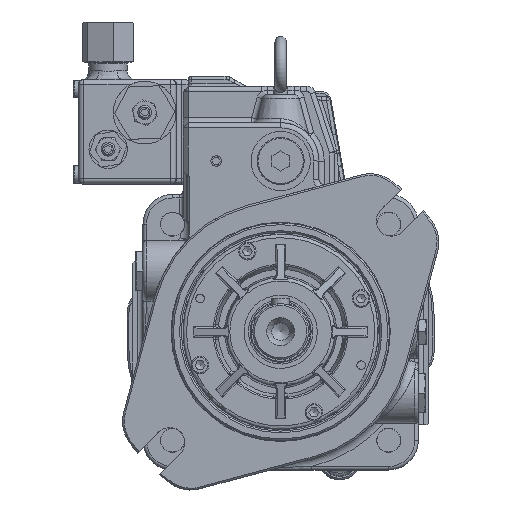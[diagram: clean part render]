
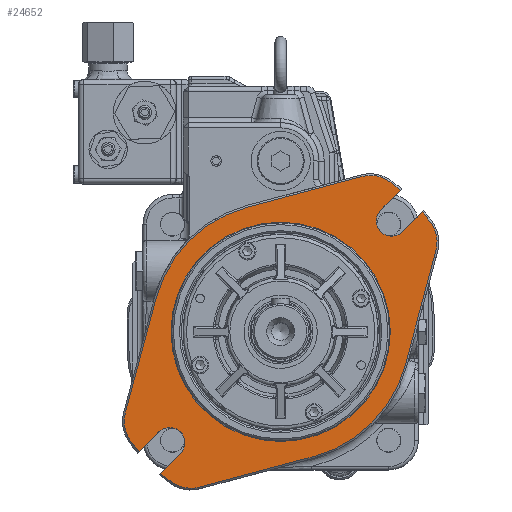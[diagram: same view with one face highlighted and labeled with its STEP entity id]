
A CAD part, top view. The second image highlights one B-rep face of the part: STEP entity #24652.
In plain terms, the highlighted planar face has unit normal (0, 0, 1).
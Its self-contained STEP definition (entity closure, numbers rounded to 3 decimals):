
#1773=LINE($,#42582,#3012);
#1780=LINE($,#42651,#3019);
#1785=LINE($,#42668,#3024);
#1787=LINE($,#42677,#3026);
#1788=LINE($,#42681,#3027);
#1789=LINE($,#42685,#3028);
#1790=LINE($,#42686,#3029);
#1791=LINE($,#42687,#3030);
#3012=VECTOR($,#31692,16.14);
#3019=VECTOR($,#31757,68.053);
#3024=VECTOR($,#31776,68.053);
#3026=VECTOR($,#31784,68.053);
#3027=VECTOR($,#31787,68.053);
#3028=VECTOR($,#31792,16.14);
#3029=VECTOR($,#31793,16.14);
#3030=VECTOR($,#31794,16.14);
#4319=PLANE($,#26896);
#4808=FACE_BOUND($,#7531,.T.);
#4809=FACE_BOUND($,#7532,.T.);
#7531=EDGE_LOOP($,(#18520));
#7532=EDGE_LOOP($,(#18521,#18522,#18523,#18524,#18525,#18526,#18527,#18528,
#18529,#18530,#18531,#18532,#18533,#18534,#18535,#18536,#18537,#18538,#18539,
#18540));
#9056=CIRCLE($,#26841,8.75);
#9068=CIRCLE($,#26861,8.75);
#9076=CIRCLE($,#26875,62.9);
#9079=CIRCLE($,#26880,106.5);
#9081=CIRCLE($,#26883,19.);
#9084=CIRCLE($,#26887,106.5);
#9086=CIRCLE($,#26891,19.);
#9087=CIRCLE($,#26893,74.);
#9089=CIRCLE($,#26897,106.5);
#9090=CIRCLE($,#26898,19.);
#9091=CIRCLE($,#26899,74.);
#9092=CIRCLE($,#26900,19.);
#9093=CIRCLE($,#26901,106.5);
#10787=VERTEX_POINT($,#42515);
#10788=VERTEX_POINT($,#42516);
#10809=VERTEX_POINT($,#42579);
#10810=VERTEX_POINT($,#42581);
#10811=VERTEX_POINT($,#42587);
#10819=VERTEX_POINT($,#42610);
#10825=VERTEX_POINT($,#42623);
#10826=VERTEX_POINT($,#42627);
#10828=VERTEX_POINT($,#42633);
#10830=VERTEX_POINT($,#42639);
#10833=VERTEX_POINT($,#42646);
#10834=VERTEX_POINT($,#42650);
#10837=VERTEX_POINT($,#42658);
#10838=VERTEX_POINT($,#42662);
#10840=VERTEX_POINT($,#42671);
#10841=VERTEX_POINT($,#42672);
#10842=VERTEX_POINT($,#42674);
#10843=VERTEX_POINT($,#42676);
#10844=VERTEX_POINT($,#42678);
#10845=VERTEX_POINT($,#42680);
#10846=VERTEX_POINT($,#42682);
#13500=EDGE_CURVE($,#10787,#10788,#9056,.T.);
#13527=EDGE_CURVE($,#10809,#10810,#1773,.T.);
#13529=EDGE_CURVE($,#10811,#10809,#9068,.T.);
#13538=EDGE_CURVE($,#10819,#10819,#9076,.T.);
#13544=EDGE_CURVE($,#10825,#10826,#9079,.T.);
#13547=EDGE_CURVE($,#10826,#10828,#9081,.T.);
#13553=EDGE_CURVE($,#10833,#10830,#9084,.T.);
#13554=EDGE_CURVE($,#10828,#10834,#1780,.T.);
#13559=EDGE_CURVE($,#10837,#10833,#9086,.T.);
#13560=EDGE_CURVE($,#10834,#10838,#9087,.T.);
#13563=EDGE_CURVE($,#10838,#10837,#1785,.T.);
#13565=EDGE_CURVE($,#10840,#10841,#9089,.T.);
#13566=EDGE_CURVE($,#10842,#10840,#9090,.T.);
#13567=EDGE_CURVE($,#10843,#10842,#1787,.T.);
#13568=EDGE_CURVE($,#10844,#10843,#9091,.T.);
#13569=EDGE_CURVE($,#10845,#10844,#1788,.T.);
#13570=EDGE_CURVE($,#10846,#10845,#9092,.T.);
#13571=EDGE_CURVE($,#10810,#10846,#9093,.T.);
#13572=EDGE_CURVE($,#10830,#10811,#1789,.T.);
#13573=EDGE_CURVE($,#10788,#10825,#1790,.T.);
#13574=EDGE_CURVE($,#10841,#10787,#1791,.T.);
#18520=ORIENTED_EDGE($,*,*,#13538,.F.);
#18521=ORIENTED_EDGE($,*,*,#13565,.F.);
#18522=ORIENTED_EDGE($,*,*,#13566,.F.);
#18523=ORIENTED_EDGE($,*,*,#13567,.F.);
#18524=ORIENTED_EDGE($,*,*,#13568,.F.);
#18525=ORIENTED_EDGE($,*,*,#13569,.F.);
#18526=ORIENTED_EDGE($,*,*,#13570,.F.);
#18527=ORIENTED_EDGE($,*,*,#13571,.F.);
#18528=ORIENTED_EDGE($,*,*,#13527,.F.);
#18529=ORIENTED_EDGE($,*,*,#13529,.F.);
#18530=ORIENTED_EDGE($,*,*,#13572,.F.);
#18531=ORIENTED_EDGE($,*,*,#13553,.F.);
#18532=ORIENTED_EDGE($,*,*,#13559,.F.);
#18533=ORIENTED_EDGE($,*,*,#13563,.F.);
#18534=ORIENTED_EDGE($,*,*,#13560,.F.);
#18535=ORIENTED_EDGE($,*,*,#13554,.F.);
#18536=ORIENTED_EDGE($,*,*,#13547,.F.);
#18537=ORIENTED_EDGE($,*,*,#13544,.F.);
#18538=ORIENTED_EDGE($,*,*,#13573,.F.);
#18539=ORIENTED_EDGE($,*,*,#13500,.F.);
#18540=ORIENTED_EDGE($,*,*,#13574,.F.);
#24652=ADVANCED_FACE($,(#4808,#4809),#4319,.T.);
#26841=AXIS2_PLACEMENT_3D($,#42517,#31640,#31641);
#26861=AXIS2_PLACEMENT_3D($,#42588,#31695,#31696);
#26875=AXIS2_PLACEMENT_3D($,#42611,#31724,#31725);
#26880=AXIS2_PLACEMENT_3D($,#42628,#31736,#31737);
#26883=AXIS2_PLACEMENT_3D($,#42634,#31743,#31744);
#26887=AXIS2_PLACEMENT_3D($,#42648,#31753,#31754);
#26891=AXIS2_PLACEMENT_3D($,#42660,#31765,#31766);
#26893=AXIS2_PLACEMENT_3D($,#42663,#31769,#31770);
#26896=AXIS2_PLACEMENT_3D($,#42670,#31778,#31779);
#26897=AXIS2_PLACEMENT_3D($,#42673,#31780,#31781);
#26898=AXIS2_PLACEMENT_3D($,#42675,#31782,#31783);
#26899=AXIS2_PLACEMENT_3D($,#42679,#31785,#31786);
#26900=AXIS2_PLACEMENT_3D($,#42683,#31788,#31789);
#26901=AXIS2_PLACEMENT_3D($,#42684,#31790,#31791);
#31640=DIRECTION('center_axis',(0.,0.,
1.));
#31641=DIRECTION('ref_axis',(0.707,-0.707,0.));
#31692=DIRECTION($,(0.707,0.707,0.));
#31695=DIRECTION('center_axis',(0.,0.,
1.));
#31696=DIRECTION('ref_axis',(-0.707,0.707,0.));
#31724=DIRECTION('center_axis',(0.,0.,
1.));
#31725=DIRECTION('ref_axis',(-1.,0.,0.));
#31736=DIRECTION('center_axis',(0.,0.,
-1.));
#31737=DIRECTION('ref_axis',(-0.808,-0.589,0.));
#31743=DIRECTION('center_axis',(0.,0.,
-1.));
#31744=DIRECTION('ref_axis',(-0.966,0.259,0.));
#31753=DIRECTION('center_axis',(0.,0.,
-1.));
#31754=DIRECTION('ref_axis',(0.647,0.762,0.));
#31757=DIRECTION($,(0.259,0.966,0.));
#31765=DIRECTION('center_axis',(0.,0.,
-1.));
#31766=DIRECTION('ref_axis',(0.589,0.808,0.));
#31769=DIRECTION('center_axis',(0.,0.,
-1.));
#31770=DIRECTION('ref_axis',(-0.259,0.966,0.));
#31776=DIRECTION($,(0.966,0.259,0.));
#31778=DIRECTION('center_axis',(0.,0.,
1.));
#31779=DIRECTION('ref_axis',(1.,0.,0.));
#31780=DIRECTION('center_axis',(0.,0.,
-1.));
#31781=DIRECTION('ref_axis',(-0.647,-0.762,0.));
#31782=DIRECTION('center_axis',(0.,0.,
-1.));
#31783=DIRECTION('ref_axis',(-0.589,-0.808,0.));
#31784=DIRECTION($,(-0.966,-0.259,0.));
#31785=DIRECTION('center_axis',(0.,0.,
-1.));
#31786=DIRECTION('ref_axis',(0.259,-0.966,0.));
#31787=DIRECTION($,(-0.259,-0.966,0.));
#31788=DIRECTION('center_axis',(0.,0.,
-1.));
#31789=DIRECTION('ref_axis',(0.966,-0.259,0.));
#31790=DIRECTION('center_axis',(0.,0.,
-1.));
#31791=DIRECTION('ref_axis',(0.808,0.589,0.));
#31792=DIRECTION($,(-0.707,-0.707,0.));
#31793=DIRECTION($,(-0.707,-0.707,0.));
#31794=DIRECTION($,(0.707,0.707,0.));
#42515=CARTESIAN_POINT('',(-57.452,-69.827,19.));
#42516=CARTESIAN_POINT('',(-69.827,-57.452,19.));
#42517=CARTESIAN_POINT('Origin',(-63.64,-63.64,19.));
#42579=CARTESIAN_POINT('',(69.827,57.452,19.));
#42581=CARTESIAN_POINT('',(81.239,68.865,19.));
#42582=CARTESIAN_POINT($,(69.827,57.452,19.));
#42587=CARTESIAN_POINT('',(57.452,69.827,19.));
#42588=CARTESIAN_POINT('Origin',(63.64,63.64,19.));
#42610=CARTESIAN_POINT('',(62.9,0.,19.));
#42611=CARTESIAN_POINT('Origin',(0.,0.,
19.));
#42623=CARTESIAN_POINT('',(-81.239,-68.865,19.));
#42627=CARTESIAN_POINT('',(-86.1,-62.682,19.));
#42628=CARTESIAN_POINT('Origin',(0.,0.,
19.));
#42633=CARTESIAN_POINT('',(-89.092,-46.582,19.));
#42634=CARTESIAN_POINT('Origin',(-70.739,-51.499,19.));
#42639=CARTESIAN_POINT('',(68.865,81.239,19.));
#42646=CARTESIAN_POINT('',(62.682,86.1,19.));
#42648=CARTESIAN_POINT('Origin',(0.,0.,
19.));
#42650=CARTESIAN_POINT('',(-71.479,19.153,19.));
#42651=CARTESIAN_POINT($,(-80.285,-13.715,19.));
#42658=CARTESIAN_POINT('',(46.582,89.092,19.));
#42660=CARTESIAN_POINT('Origin',(51.499,70.739,19.));
#42662=CARTESIAN_POINT('',(-19.153,71.479,19.));
#42663=CARTESIAN_POINT('Origin',(0.,0.,
19.));
#42668=CARTESIAN_POINT($,(-19.153,71.479,19.));
#42670=CARTESIAN_POINT('Origin',(0.,0.,
19.));
#42671=CARTESIAN_POINT('',(-62.682,-86.1,19.));
#42672=CARTESIAN_POINT('',(-68.865,-81.239,19.));
#42673=CARTESIAN_POINT('Origin',(0.,0.,
19.));
#42674=CARTESIAN_POINT('',(-46.582,-89.092,19.));
#42675=CARTESIAN_POINT('Origin',(-51.499,-70.739,19.));
#42676=CARTESIAN_POINT('',(19.153,-71.479,19.));
#42677=CARTESIAN_POINT($,(19.153,-71.479,19.));
#42678=CARTESIAN_POINT('',(71.479,-19.153,19.));
#42679=CARTESIAN_POINT('Origin',(0.,0.,
19.));
#42680=CARTESIAN_POINT('',(89.092,46.582,19.));
#42681=CARTESIAN_POINT($,(80.285,13.715,19.));
#42682=CARTESIAN_POINT('',(86.1,62.682,19.));
#42683=CARTESIAN_POINT('Origin',(70.739,51.499,19.));
#42684=CARTESIAN_POINT('Origin',(0.,0.,
19.));
#42685=CARTESIAN_POINT($,(69.575,81.949,19.));
#42686=CARTESIAN_POINT($,(-69.827,-57.452,19.));
#42687=CARTESIAN_POINT($,(-69.575,-81.949,19.));
